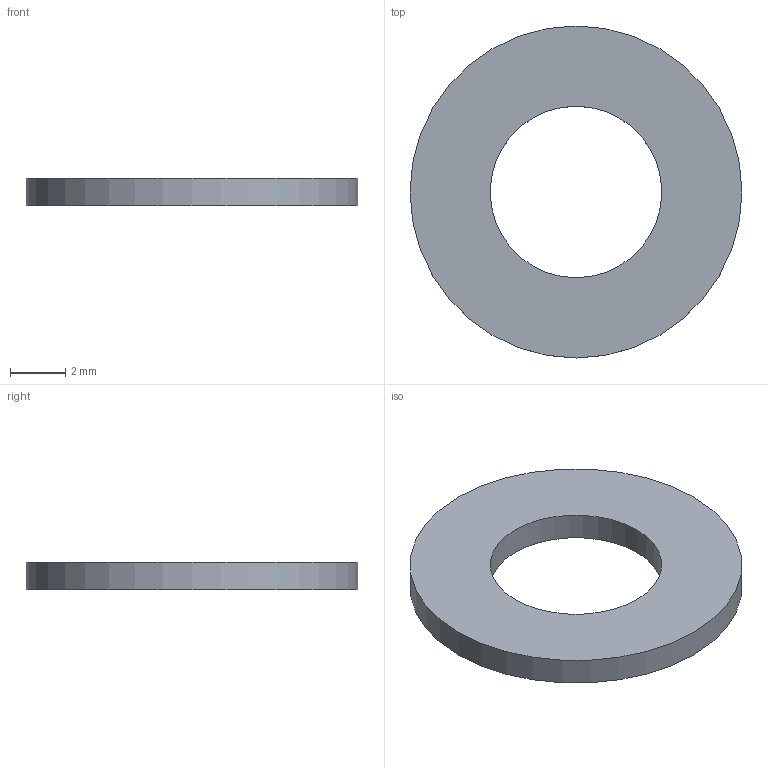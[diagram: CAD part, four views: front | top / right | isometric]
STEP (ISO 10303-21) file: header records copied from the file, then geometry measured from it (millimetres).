
FILE_DESCRIPTION(/* description */ ('Sliding Disk Axis'),/* implementation_level */ '2;1');
FILE_NAME(/* name */ 'Z:\Werkstatt Server\Projekte\Atlas\Entwicklung u. Konstruktion\Konstruktion\CAD Daten\ITkPixToolV2.0\Baremodule Jig\ITPTv2.01.00.27.stp',/* time_stamp */ '2021-08-06T14:58:14+02:00',/* author */ ('Tim Kanngießer'),/* organization */ (''),/* preprocessor_version */ 'ST-DEVELOPER v18.1',/* originating_system */ 'Autodesk Inventor 2022',/* authorisation */ '');
FILE_SCHEMA (('AUTOMOTIVE_DESIGN { 1 0 10303 214 3 1 1 }'));
Length unit declared in the file: millimetre
Products named in the file (1): ITPTv2.0.00.27
Bounding box: 12 x 12 x 1 mm (x, y, z)
Volume: 82.9 mm3; surface area: 223 mm2
Topology: 1 solids, 1 shells, 4 faces, 6 edges, 4 vertices
Faces by surface type: cylinder 2, plane 2
Full cylindrical faces by diameter (mm): 6.2 x1, 12 x1
Entity records: 139 total; most frequent: DIRECTION 20, CARTESIAN_POINT 15, ORIENTED_EDGE 12, AXIS2_PLACEMENT_3D 9, EDGE_LOOP 6, EDGE_CURVE 6, FACE_OUTER_BOUND 4, CIRCLE 4
